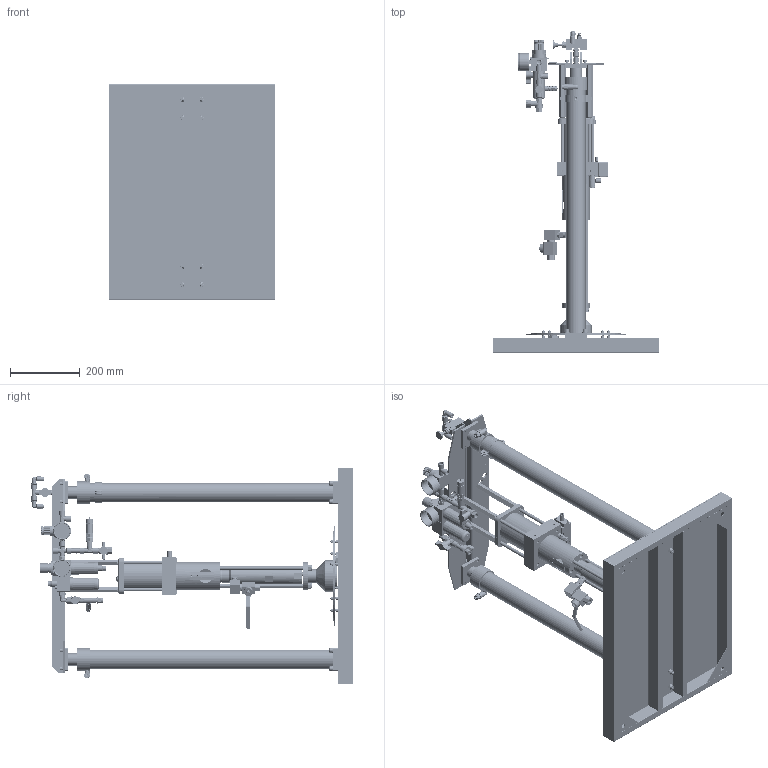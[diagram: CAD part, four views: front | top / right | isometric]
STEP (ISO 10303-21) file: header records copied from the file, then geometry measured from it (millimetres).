
FILE_DESCRIPTION (( 'STEP AP214' ), '1' );
FILE_NAME ('PP50-38-15.STEP', '2024-10-11T14:14:44', ( '' ), ( '' ), 'SwSTEP 2.0', 'SolidWorks 2024', '' );
FILE_SCHEMA (( 'AUTOMOTIVE_DESIGN' ));
Length unit declared in the file: millimetre
Products named in the file (1): PP50-38-15
Bounding box: 480 x 925.25 x 620 mm (x, y, z)
Volume: 7578510.4 mm3; surface area: 2955572.9 mm2
Topology: 3 solids, 8 shells, 5603 faces, 13891 edges, 8720 vertices
Faces by surface type: plane 2840, cylinder 1553, cone 996, torus 175, bspline 28, sphere 11
Entity records: 173207 total; most frequent: CARTESIAN_POINT 42412, ORIENTED_EDGE 27646, DIRECTION 26556, EDGE_CURVE 13823, AXIS2_PLACEMENT_3D 10099, VERTEX_POINT 8720, VECTOR 6358, LINE 6358
